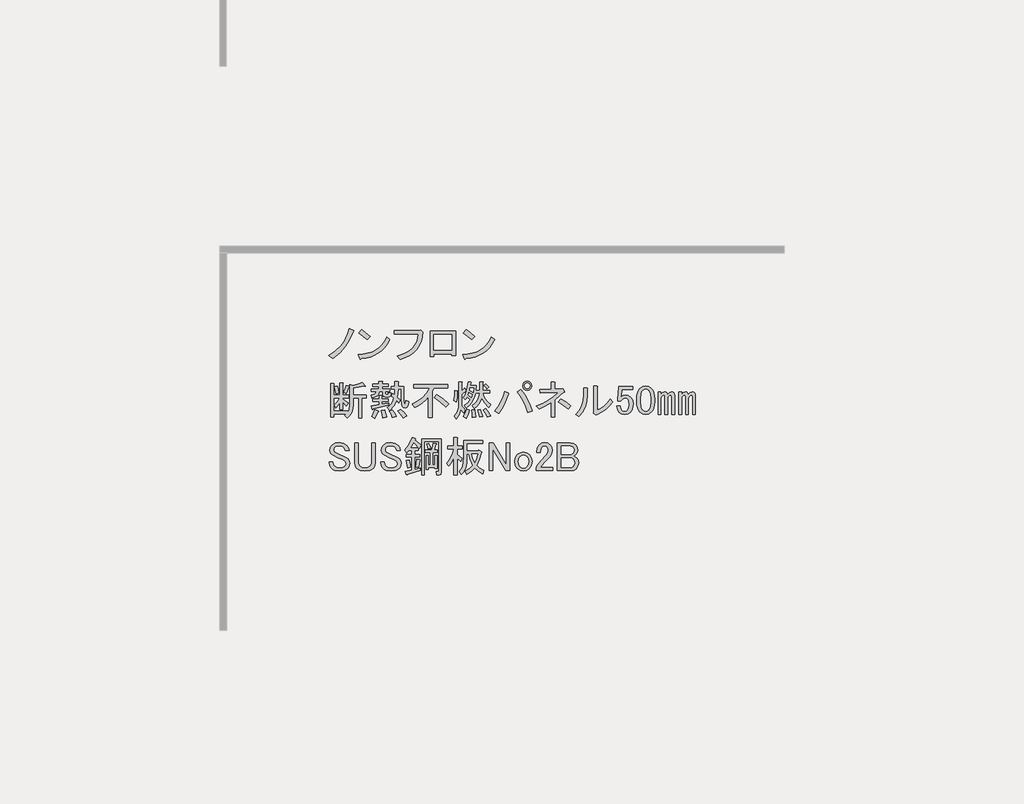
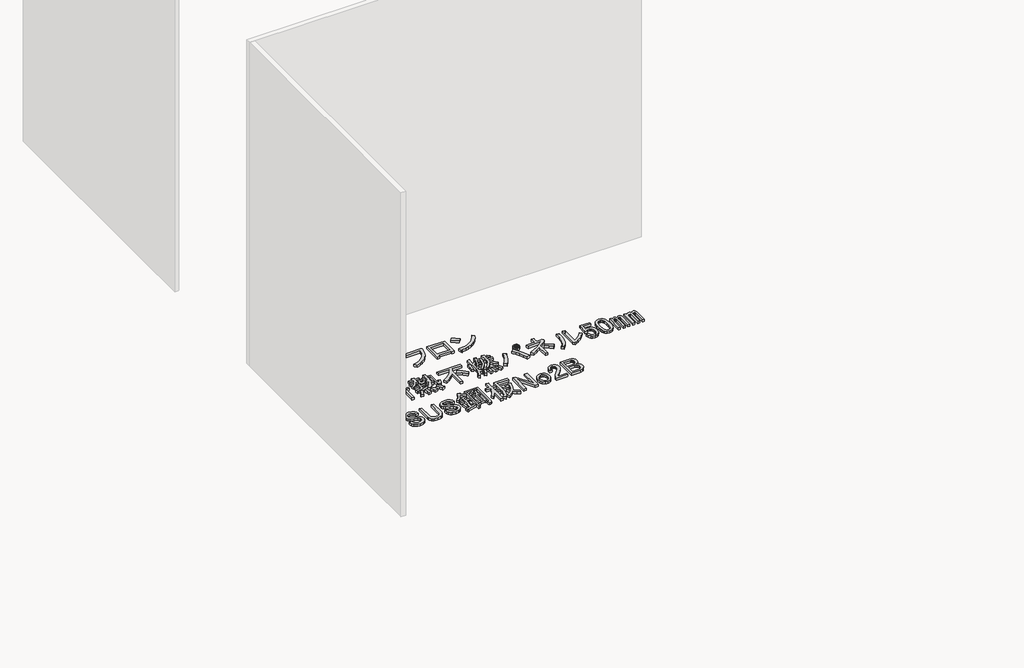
# One storey, part 28 of 117: 1 proxy.
"""IFC4 building model written with IfcOpenShell, lengths in millimetres."""

from ifc_helpers import new_model, si_unit, frame, origin, place, context, project, spatial, polyline, outline, extrude, element, save

model = new_model("IFC4")

# Units and contexts
model_context = context("Model", 3, world=origin())
ifc_project = project(units=[si_unit("LENGTHUNIT", "METRE", prefix="MILLI")], contexts=[model_context])

# Site, building, storey
site = spatial("IfcSite", under=ifc_project)
building = spatial("IfcBuilding", under=site)
storey = spatial("IfcBuildingStorey", under=building, Name="レベル 1", Elevation=500.0)

# Proxy
placement = place(None, origin())
element("IfcBuildingElementProxy", 1, Name="200㎜\u3000MS Pゴシック", ObjectType="200㎜\u3000MS Pゴシック", at=placement, inside=storey, context=model_context, shape_type="SweptSolid", body=[
    extrude(outline(polyline([(8943.6706985, -24607.0496882), (8918.0952502, -24666.8215225), (8889.646156, -24712.7998566), (8847.9782907, -24758.2034615), (8798.8389462, -24795.560858), (8771.2519457, -24773.7211493), (8818.9544673, -24743.2605029), (8858.6107805, -24704.7536481), (8875.9963381, -24680.8305462), (8891.3703435, -24652.7406577), (8904.7327969, -24620.4839827), (8916.0836981, -24584.0605212), (8947.1190736, -24597.8540214), (8950.2800841, -24602.4518548), (8943.6706985, -24607.0496882)])), frame((0.0, 0.0, 500.0), z_axis=(0.0, 0.0, 1.0), x_axis=(1.0, 0.0, 0.0)), (0.0, 0.0, 1.0), 25.0),
    extrude(outline(polyline([(9043.3977052, -24662.2236891), (8984.7753292, -24615.0958967), (9004.3161212, -24590.9572713), (9031.6157571, -24610.7854279), (9065.2374138, -24640.3839804), (9043.3977052, -24662.2236891)])), frame((0.0, 0.0, 500.0), z_axis=(0.0, 0.0, 1.0), x_axis=(1.0, 0.0, 0.0)), (0.0, 0.0, 1.0), 25.0),
    extrude(outline(polyline([(9205.4713328, -24662.2236891), (9188.947869, -24691.965924), (9169.8381239, -24717.9724192), (9148.1420975, -24740.2431748), (9123.8597898, -24758.7781907), (9096.9912008, -24773.577467), (9067.5363306, -24784.6410036), (9035.495179, -24791.9688006), (9000.8677461, -24795.560858), (8995.1204544, -24803.6070664), (8989.3731626, -24797.8597747), (8980.1774958, -24767.9738575), (9016.0082679, -24765.2977748), (9048.7857912, -24758.9937141), (9078.5100658, -24749.0616756), (9105.1810916, -24735.5016591), (9128.7988687, -24718.3136646), (9149.363397, -24697.4976923), (9166.8746766, -24673.053742), (9181.3327074, -24644.9818138), (9205.4713328, -24662.2236891)])), frame((0.0, 0.0, 500.0), z_axis=(0.0, 0.0, 1.0), x_axis=(1.0, 0.0, 0.0)), (0.0, 0.0, 1.0), 25.0),
    extrude(outline(polyline([(9256.2314136, -24777.1695243), (9290.014713, -24767.4889298), (9319.5234641, -24755.1142922), (9344.757667, -24740.0456116), (9365.7173217, -24722.282888), (9382.402428, -24701.8261214), (9394.8129862, -24678.6753118), (9402.9489961, -24652.8304591), (9406.8104577, -24624.2915635), (9234.3917049, -24624.2915635), (9234.3917049, -24599.0034798), (9409.1093744, -24599.0034798), (9425.2017914, -24595.5551047), (9437.8458332, -24607.0496882), (9434.325617, -24643.5449909), (9426.0638851, -24676.5919185), (9413.0606375, -24706.1904711), (9395.3158742, -24732.3406486), (9372.8295952, -24755.042451), (9345.6018005, -24774.2958784), (9313.6324901, -24790.1009308), (9276.921664, -24802.4576081), (9256.2314136, -24777.1695243)])), frame((0.0, 0.0, 500.0), z_axis=(0.0, 0.0, 1.0), x_axis=(1.0, 0.0, 0.0)), (0.0, 0.0, 1.0), 25.0),
    extrude(outline(polyline([(9670.955987, -24776.020066), (9644.5184449, -24776.020066), (9644.5184449, -24763.3760241), (9516.9285679, -24763.3760241), (9516.9285679, -24781.7673577), (9490.4910258, -24781.7673577), (9490.4910258, -24602.4518548), (9670.955987, -24602.4518548), (9670.955987, -24776.020066)]), holes=[polyline([(9516.9285679, -24627.7399386), (9516.9285679, -24738.0879404), (9644.5184449, -24738.0879404), (9644.5184449, -24627.7399386), (9516.9285679, -24627.7399386)])]), frame((0.0, 0.0, 500.0), z_axis=(0.0, 0.0, 1.0), x_axis=(1.0, 0.0, 0.0)), (0.0, 0.0, 1.0), 25.0),
    extrude(outline(polyline([(9947.0099049, -24662.2236891), (9930.4864411, -24691.965924), (9911.376696, -24717.9724192), (9889.6806696, -24740.2431748), (9865.3983619, -24758.7781907), (9838.5297729, -24773.577467), (9809.0749026, -24784.6410036), (9777.0337511, -24791.9688006), (9742.4063182, -24795.560858), (9736.6590264, -24803.6070664), (9730.9117347, -24797.8597747), (9721.7160679, -24767.9738575), (9757.5468399, -24765.2977748), (9790.3243633, -24758.9937141), (9820.0486378, -24749.0616756), (9846.7196637, -24735.5016591), (9870.3374407, -24718.3136646), (9890.9019691, -24697.4976923), (9908.4132486, -24673.053742), (9922.8712795, -24644.9818138), (9947.0099049, -24662.2236891)])), frame((0.0, 0.0, 500.0), z_axis=(0.0, 0.0, 1.0), x_axis=(1.0, 0.0, 0.0)), (0.0, 0.0, 1.0), 25.0),
    extrude(outline(polyline([(9784.9362772, -24662.2236891), (9726.3139013, -24615.0958967), (9745.8546933, -24590.9572713), (9773.1543291, -24610.7854279), (9806.7759859, -24640.3839804), (9784.9362772, -24662.2236891)])), frame((0.0, 0.0, 500.0), z_axis=(0.0, 0.0, 1.0), x_axis=(1.0, 0.0, 0.0)), (0.0, 0.0, 1.0), 25.0),
    extrude(outline(polyline([(8877.0021141, -25039.2345221), (8894.2439894, -24986.3594379), (8914.9342397, -24992.1067296), (8916.6584273, -24995.2677401), (8912.635323, -24997.8540214), (8895.3934477, -25046.1312722), (8877.0021141, -25039.2345221)])), frame((0.0, 0.0, 500.0), z_axis=(0.0, 0.0, 1.0), x_axis=(1.0, 0.0, 0.0)), (0.0, 0.0, 1.0), 25.0),
    extrude(outline(polyline([(9031.0295333, -24990.9572713), (9029.3053458, -24995.5551047), (9021.8338665, -24993.256188), (8944.8201569, -25005.9002299), (8944.8201569, -25055.326939), (9036.7768251, -25055.326939), (9036.7768251, -25077.1666477), (9005.7414495, -25077.1666477), (9005.7414495, -25217.4005666), (8982.7522825, -25217.4005666), (8982.7522825, -25077.1666477), (8944.8201569, -25077.1666477), (8944.8201569, -25126.5933568), (8942.2338756, -25154.3958807), (8934.4750317, -25179.1810764), (8921.5436253, -25200.948944), (8903.4396562, -25219.6994833), (8886.1977809, -25200.1586914), (8896.5429061, -25190.9630245), (8806.8851546, -25190.9630245), (8806.8851546, -25212.8027332), (8783.8959876, -25212.8027332), (8783.8959876, -24973.715396), (8805.7356963, -24973.715396), (8810.6208943, -24976.0143127), (8806.8851546, -24980.6121461), (8806.8851546, -25056.4763974), (8849.4151137, -25056.4763974), (8849.4151137, -24969.1175626), (8867.8064473, -24969.1175626), (8872.6916453, -24971.4164793), (8868.9559057, -24976.0143127), (8868.9559057, -25056.4763974), (8912.635323, -25056.4763974), (8912.635323, -25074.867731), (8868.9559057, -25074.867731), (8868.9559057, -25084.0633978), (8909.186948, -25110.5009399), (8895.3934477, -25132.3406486), (8868.9559057, -25105.9031065), (8868.9559057, -25158.7781907), (8849.4151137, -25158.7781907), (8849.4151137, -25110.5009399), (8836.1963426, -25130.3290965), (8821.8281132, -25146.1341488), (8809.1840713, -25127.7428152), (8831.02378, -25103.6041898), (8848.2656553, -25074.867731), (8806.8851546, -25074.867731), (8806.8851546, -25169.1233159), (8904.5891146, -25169.1233159), (8904.5891146, -25182.9168161), (8917.520521, -25158.7781907), (8921.8309898, -25125.4438985), (8921.8309898, -24980.6121461), (8943.6706985, -24986.3594379), (8979.8786366, -24978.8879586), (9010.339283, -24965.6691875), (9031.0295333, -24990.9572713)])), frame((0.0, 0.0, 500.0), z_axis=(0.0, 0.0, 1.0), x_axis=(1.0, 0.0, 0.0)), (0.0, 0.0, 1.0), 25.0),
    extrude(outline(polyline([(8822.9775716, -25047.2807305), (8810.3335297, -24996.7045631), (8829.8743217, -24989.8078129), (8837.6331656, -25013.9464383), (8842.5183636, -25040.3839804), (8822.9775716, -25047.2807305)])), frame((0.0, 0.0, 500.0), z_axis=(0.0, 0.0, 1.0), x_axis=(1.0, 0.0, 0.0)), (0.0, 0.0, 1.0), 25.0),
    extrude(outline(polyline([(9121.8367431, -25167.9738575), (9125.2851182, -25172.8590555), (9119.5378264, -25176.020066), (9109.7674304, -25201.5955143), (9098.8475761, -25220.8489417), (9075.858409, -25209.3543582), (9088.5024509, -25185.790462), (9098.8475761, -25158.7781907), (9121.8367431, -25167.9738575)])), frame((0.0, 0.0, 500.0), z_axis=(0.0, 0.0, 1.0), x_axis=(1.0, 0.0, 0.0)), (0.0, 0.0, 1.0), 25.0),
    extrude(outline(polyline([(9166.6656188, -25163.3760241), (9176.7233794, -25190.67566), (9181.6085774, -25212.8027332), (9152.8721186, -25218.550025), (9150.2858373, -25196.9976809), (9142.5269934, -25166.8243992), (9166.6656188, -25163.3760241)])), frame((0.0, 0.0, 500.0), z_axis=(0.0, 0.0, 1.0), x_axis=(1.0, 0.0, 0.0)), (0.0, 0.0, 1.0), 25.0),
    extrude(outline(polyline([(9281.611454, -25157.6287323), (9306.3248086, -25178.8937119), (9325.2908714, -25203.6070664), (9298.8533293, -25218.550025), (9279.5999019, -25188.9514724), (9260.9212037, -25169.1233159), (9281.611454, -25157.6287323)])), frame((0.0, 0.0, 500.0), z_axis=(0.0, 0.0, 1.0), x_axis=(1.0, 0.0, 0.0)), (0.0, 0.0, 1.0), 25.0),
    extrude(outline(polyline([(9222.9890781, -25216.2511083), (9214.655505, -25191.5377537), (9201.1493694, -25170.2727742), (9221.8396197, -25162.2265657), (9238.7941304, -25183.7789098), (9250.5760785, -25207.0554415), (9222.9890781, -25216.2511083)])), frame((0.0, 0.0, 500.0), z_axis=(0.0, 0.0, 1.0), x_axis=(1.0, 0.0, 0.0)), (0.0, 0.0, 1.0), 25.0),
    extrude(outline(polyline([(9083.9046175, -25153.0308989), (9081.8930654, -25157.9160969), (9078.1573257, -25156.479274), (9072.410034, -25132.3406486), (9127.5840349, -25124.2944401), (9127.5840349, -25101.3052731), (9083.9046175, -25101.3052731), (9083.9046175, -25082.9139395), (9127.5840349, -25082.9139395), (9127.5840349, -25059.9247724), (9145.9753685, -25059.9247724), (9150.8605665, -25062.2236891), (9147.1248268, -25066.8215225), (9147.1248268, -25082.9139395), (9191.9537026, -25082.9139395), (9191.9537026, -25101.3052731), (9147.1248268, -25101.3052731), (9147.1248268, -25120.8460651), (9197.7009943, -25111.6503983), (9197.7009943, -25127.7428152), (9083.9046175, -25153.0308989)])), frame((0.0, 0.0, 500.0), z_axis=(0.0, 0.0, 1.0), x_axis=(1.0, 0.0, 0.0)), (0.0, 0.0, 1.0), 25.0),
    extrude(outline(polyline([(9154.021577, -25031.1883136), (9128.7334932, -25031.1883136), (9124.1356598, -25048.6457123), (9113.7905346, -25061.9363245), (9097.6981177, -25071.0601502), (9075.858409, -25076.0171893), (9071.2605756, -25056.4763974), (9096.5486594, -25047.8554597), (9104.0201386, -25040.5276627), (9108.0432429, -25031.1883136), (9072.410034, -25031.1883136), (9072.410034, -25012.79698), (9126.4345765, -25012.79698), (9126.4345765, -24995.5551047), (9082.7551591, -24995.5551047), (9082.7551591, -24977.1637711), (9126.4345765, -24977.1637711), (9126.4345765, -24958.7724374), (9148.2742852, -24958.7724374), (9153.1594832, -24961.0713541), (9149.4237436, -24965.6691875), (9149.4237436, -24977.1637711), (9191.9537026, -24977.1637711), (9191.9537026, -24995.5551047), (9149.4237436, -24995.5551047), (9149.4237436, -25012.79698), (9202.2988277, -25012.79698), (9202.2988277, -25031.1883136), (9173.5623689, -25031.1883136), (9173.5623689, -25043.8323555), (9174.9991919, -25049.0049181), (9179.3096607, -25050.7291056), (9189.6547859, -25050.7291056), (9193.3905255, -25047.5680951), (9193.1031609, -25038.0850637), (9212.6439529, -25040.3839804), (9209.770307, -25061.9363245), (9204.4540622, -25067.3244106), (9196.551536, -25069.1204392), (9172.4129106, -25069.1204392), (9158.6194104, -25064.2352412), (9154.021577, -25049.5796472), (9154.021577, -25031.1883136)])), frame((0.0, 0.0, 500.0), z_axis=(0.0, 0.0, 1.0), x_axis=(1.0, 0.0, 0.0)), (0.0, 0.0, 1.0), 25.0),
    extrude(outline(polyline([(9285.0598291, -25013.9464383), (9263.2201204, -25013.9464383), (9258.622287, -25071.4193559), (9278.163079, -25089.8106896), (9267.8179538, -25111.6503983), (9251.7255369, -25095.5579813), (9232.4721095, -25133.2027424), (9202.2988277, -25165.6749408), (9185.0569525, -25144.9846905), (9200.1435933, -25133.0590601), (9213.2186821, -25117.9724192), (9224.2822187, -25099.7247679), (9233.3342033, -25078.316106), (9216.092328, -25063.3731475), (9224.1385364, -25046.1312722), (9237.9320367, -25056.4763974), (9240.2309534, -25013.9464383), (9212.6439529, -25013.9464383), (9212.6439529, -24995.5551047), (9240.2309534, -24995.5551047), (9240.2309534, -24961.0713541), (9262.0706621, -24961.0713541), (9266.95586, -24963.3702708), (9263.2201204, -24967.9681043), (9263.2201204, -24995.5551047), (9304.6006211, -24995.5551047), (9304.6006211, -25092.1096063), (9308.0489961, -25116.2482317), (9311.2818477, -25118.2597838), (9314.0836525, -25115.0987733), (9318.3941213, -25093.2590646), (9337.9349133, -25100.1558147), (9333.408921, -25126.9525626), (9325.578236, -25142.9731384), (9314.4428582, -25148.2175421), (9300.0027877, -25142.6857738), (9293.4652433, -25135.3579768), (9288.7955687, -25123.719711), (9285.0598291, -25087.5117729), (9285.0598291, -25013.9464383)])), frame((0.0, 0.0, 500.0), z_axis=(0.0, 0.0, 1.0), x_axis=(1.0, 0.0, 0.0)), (0.0, 0.0, 1.0), 25.0),
    extrude(outline(polyline([(9373.5681222, -24980.6121461), (9614.9543761, -24980.6121461), (9614.9543761, -25005.9002299), (9514.9514995, -25005.9002299), (9504.6063743, -25030.0388553), (9504.6063743, -25216.2511083), (9478.1688322, -25216.2511083), (9478.1688322, -25069.1204392), (9457.3348996, -25092.3969709), (9433.9146857, -25112.7998566), (9407.9081905, -25130.3290965), (9379.315414, -25144.9846905), (9363.222997, -25118.5471484), (9402.807469, -25098.1442626), (9436.500967, -25072.5688143), (9464.3034909, -25041.8208034), (9486.2150407, -25005.9002299), (9373.5681222, -25005.9002299), (9373.5681222, -24980.6121461)])), frame((0.0, 0.0, 500.0), z_axis=(0.0, 0.0, 1.0), x_axis=(1.0, 0.0, 0.0)), (0.0, 0.0, 1.0), 25.0),
    extrude(outline(polyline([(9600.0114176, -25141.5363154), (9560.9298336, -25103.3168252), (9519.5493329, -25073.7182726), (9535.6417498, -25053.0280223), (9579.3211672, -25081.1897519), (9620.7016679, -25119.6966067), (9600.0114176, -25141.5363154)])), frame((0.0, 0.0, 500.0), z_axis=(0.0, 0.0, 1.0), x_axis=(1.0, 0.0, 0.0)), (0.0, 0.0, 1.0), 25.0),
    extrude(outline(polyline([(9767.832337, -25163.3760241), (9759.2113993, -25193.8366704), (9744.8431699, -25220.8489417), (9725.3023779, -25208.2048998), (9739.3832427, -25183.4915453), (9749.4410033, -25155.3298156), (9767.832337, -25163.3760241)])), frame((0.0, 0.0, 500.0), z_axis=(0.0, 0.0, 1.0), x_axis=(1.0, 0.0, 0.0)), (0.0, 0.0, 1.0), 25.0),
    extrude(outline(polyline([(9682.7724189, -25025.4410219), (9687.3702523, -25027.7399386), (9682.7724189, -25032.337772), (9681.6229605, -25071.9940851), (9675.8756688, -25105.9031065), (9657.4843352, -25093.2590646), (9663.2316269, -25058.7753141), (9664.3810853, -25021.9926468), (9682.7724189, -25025.4410219)])), frame((0.0, 0.0, 500.0), z_axis=(0.0, 0.0, 1.0), x_axis=(1.0, 0.0, 0.0)), (0.0, 0.0, 1.0), 25.0),
    extrude(outline(polyline([(9734.4980447, -25007.0496882), (9743.6937116, -25024.2915635), (9745.1305345, -25030.3262199), (9740.2453365, -25030.0388553), (9713.8077944, -25050.7291056), (9713.8077944, -25134.6395653), (9727.6012946, -25146.9962426), (9739.0958781, -25163.3760241), (9726.4518363, -25184.0662744), (9708.0605026, -25158.7781907), (9696.2785545, -25194.6987642), (9674.7262104, -25224.2973168), (9659.7832519, -25205.9059831), (9674.8698927, -25187.1554438), (9685.6460648, -25166.5370346), (9692.111768, -25144.0507556), (9694.2670024, -25119.6966067), (9694.2670024, -24962.2208125), (9712.6583361, -24962.2208125), (9717.543534, -24964.5197292), (9713.8077944, -24969.1175626), (9713.8077944, -25027.7399386), (9734.4980447, -25007.0496882)])), frame((0.0, 0.0, 500.0), z_axis=(0.0, 0.0, 1.0), x_axis=(1.0, 0.0, 0.0)), (0.0, 0.0, 1.0), 25.0),
    extrude(outline(polyline([(9885.0770889, -24976.0143127), (9906.9167975, -25000.1529381), (9889.6749223, -25011.6475216), (9883.0655367, -25000.1529381), (9870.1341303, -24986.3594379), (9885.0770889, -24976.0143127)])), frame((0.0, 0.0, 500.0), z_axis=(0.0, 0.0, 1.0), x_axis=(1.0, 0.0, 0.0)), (0.0, 0.0, 1.0), 25.0),
    extrude(outline(polyline([(9895.422214, -25212.8027332), (9882.203443, -25184.6410036), (9865.5362969, -25159.927649), (9883.9276305, -25151.8814406), (9902.8936933, -25174.8706076), (9918.4113811, -25202.4576081), (9895.422214, -25212.8027332)])), frame((0.0, 0.0, 500.0), z_axis=(0.0, 0.0, 1.0), x_axis=(1.0, 0.0, 0.0)), (0.0, 0.0, 1.0), 25.0),
    extrude(outline(polyline([(9845.9955049, -25157.6287323), (9864.3868385, -25207.0554415), (9840.2482131, -25211.6532749), (9826.4547129, -25161.0771074), (9845.9955049, -25157.6287323)])), frame((0.0, 0.0, 500.0), z_axis=(0.0, 0.0, 1.0), x_axis=(1.0, 0.0, 0.0)), (0.0, 0.0, 1.0), 25.0),
    extrude(outline(polyline([(9787.3731289, -25215.1016499), (9787.9478581, -25188.0893787), (9785.0742122, -25159.927649), (9804.6150042, -25158.7781907), (9810.9370252, -25184.9283682), (9811.5117543, -25212.8027332), (9787.3731289, -25215.1016499)])), frame((0.0, 0.0, 500.0), z_axis=(0.0, 0.0, 1.0), x_axis=(1.0, 0.0, 0.0)), (0.0, 0.0, 1.0), 25.0),
    extrude(outline(polyline([(9906.9167975, -25142.6857738), (9876.1687866, -25112.2251274), (9855.1911717, -25078.316106), (9846.7857575, -25100.4431793), (9835.3630151, -25119.6966067), (9820.9229446, -25136.0763882), (9803.4655459, -25149.5825239), (9789.6720456, -25131.1911902), (9810.5059783, -25112.2969686), (9825.8799837, -25091.2475125), (9835.794062, -25068.042822), (9840.2482131, -25042.6828971), (9811.5117543, -25042.6828971), (9803.537387, -25073.2872258), (9789.9594102, -25100.7305439), (9770.777824, -25125.0128516), (9745.9926283, -25146.1341488), (9733.3485864, -25130.0417319), (9759.2113993, -25108.4893878), (9774.7290871, -25087.5117729), (9752.8893784, -25067.9709809), (9739.0958781, -25088.6612312), (9725.3023779, -25073.7182726), (9737.7308964, -25054.6803687), (9747.4294512, -25029.7514907), (9754.3980425, -24998.9316386), (9758.6366701, -24962.2208125), (9779.3269205, -24964.5197292), (9782.7752955, -24967.1060105), (9777.0280038, -24970.267021), (9774.7290871, -24988.6583546), (9818.4085044, -24988.6583546), (9814.9601294, -25024.2915635), (9840.2482131, -25024.2915635), (9840.2482131, -24962.2208125), (9862.0879218, -24962.2208125), (9866.9731198, -24964.5197292), (9863.2373802, -24969.1175626), (9863.2373802, -25024.2915635), (9912.6640893, -25024.2915635), (9912.6640893, -25042.6828971), (9863.2373802, -25042.6828971), (9869.7749245, -25064.4507647), (9881.3413492, -25084.9254916), (9897.9366542, -25104.1070778), (9919.5608394, -25121.9955234), (9906.9167975, -25142.6857738)]), holes=[polyline([(9782.7752955, -25072.5688143), (9789.6720456, -25053.0280223), (9764.3839619, -25036.9356054), (9758.6366701, -25054.1774807), (9782.7752955, -25072.5688143)]), polyline([(9772.4301704, -25007.0496882), (9768.9817953, -25023.1421052), (9794.269879, -25036.9356054), (9798.8677125, -25007.0496882), (9772.4301704, -25007.0496882)])]), frame((0.0, 0.0, 500.0), z_axis=(0.0, 0.0, 1.0), x_axis=(1.0, 0.0, 0.0)), (0.0, 0.0, 1.0), 25.0),
    extrude(outline(polyline([(10132.2106345, -25016.245355), (10158.8637001, -25052.9561812), (10181.3499791, -25090.6727833), (10199.6694716, -25129.3951616), (10213.8221775, -25169.1233159), (10182.786802, -25179.468441), (10167.3409554, -25136.3637528), (10149.7398744, -25097.856898), (10129.983559, -25063.9478766), (10108.0720092, -25034.6366887), (10132.2106345, -25016.245355)])), frame((0.0, 0.0, 500.0), z_axis=(0.0, 0.0, 1.0), x_axis=(1.0, 0.0, 0.0)), (0.0, 0.0, 1.0), 25.0),
    extrude(outline(polyline([(10044.8517998, -25042.6828971), (10048.874904, -25048.1428243), (10042.5528831, -25053.0280223), (10030.6272527, -25088.4457078), (10015.5406118, -25122.282888), (9997.2929605, -25154.539563), (9975.8842987, -25185.2157328), (9949.4467566, -25167.9738575), (9972.6514471, -25136.5074351), (9991.689351, -25103.0294606), (10006.5604684, -25067.539934), (10017.2647993, -25030.0388553), (10044.8517998, -25042.6828971)])), frame((0.0, 0.0, 500.0), z_axis=(0.0, 0.0, 1.0), x_axis=(1.0, 0.0, 0.0)), (0.0, 0.0, 1.0), 25.0),
    extrude(outline(polyline([(10178.1889686, -25021.9926468), (10165.5449268, -25019.6937301), (10155.1998016, -25012.79698), (10148.3030515, -25002.4518548), (10146.0041348, -24989.8078129), (10148.3030515, -24977.1637711), (10155.1998016, -24966.8186459), (10165.5449268, -24959.9218958), (10178.1889686, -24957.6229791), (10190.8330105, -24959.9218958), (10201.1781357, -24966.8186459), (10208.0748858, -24977.1637711), (10210.3738025, -24989.8078129), (10208.0748858, -25002.4518548), (10201.1781357, -25012.79698), (10190.8330105, -25019.6937301), (10178.1889686, -25021.9926468)]), holes=[polyline([(10178.1889686, -25010.4980633), (10186.5225417, -25009.0612403), (10193.1319272, -25004.7507715), (10197.442396, -24998.141386), (10198.879219, -24989.8078129), (10197.442396, -24981.4742399), (10193.1319272, -24974.8648544), (10186.5225417, -24970.5543855), (10178.1889686, -24969.1175626), (10169.8553956, -24970.5543855), (10163.2460101, -24974.8648544), (10158.9355412, -24981.4742399), (10157.4987183, -24989.8078129), (10158.9355412, -24998.141386), (10163.2460101, -25004.7507715), (10169.8553956, -25009.0612403), (10178.1889686, -25010.4980633)])]), frame((0.0, 0.0, 500.0), z_axis=(0.0, 0.0, 1.0), x_axis=(1.0, 0.0, 0.0)), (0.0, 0.0, 1.0), 25.0),
    extrude(outline(polyline([(10421.8741393, -25011.6475216), (10428.7708894, -25009.3486049), (10441.4149312, -25026.5904802), (10442.5643896, -25032.6251366), (10436.8170978, -25034.6366887), (10373.5968885, -25090.9601479), (10373.5968885, -25211.6532749), (10347.1593464, -25211.6532749), (10347.1593464, -25109.3514816), (10306.9283041, -25133.4901069), (10262.0994283, -25155.3298156), (10242.5586363, -25134.6395653), (10288.1059235, -25115.1706145), (10329.3427419, -25092.3969709), (10366.2690915, -25066.3186345), (10398.8849722, -25036.9356054), (10268.9961784, -25042.6828971), (10265.5478034, -25017.3948134), (10347.1593464, -25015.0958967), (10347.1593464, -24963.3702708), (10370.1485134, -24963.3702708), (10376.1831698, -24966.8186459), (10373.5968885, -24972.5659377), (10373.5968885, -25013.9464383), (10421.8741393, -25011.6475216)])), frame((0.0, 0.0, 500.0), z_axis=(0.0, 0.0, 1.0), x_axis=(1.0, 0.0, 0.0)), (0.0, 0.0, 1.0), 25.0),
    extrude(outline(polyline([(10467.8524733, -25155.3298156), (10430.7824415, -25126.0186277), (10397.7355139, -25104.7536481), (10414.9773892, -25082.9139395), (10453.7716085, -25106.1904711), (10487.3932653, -25132.3406486), (10467.8524733, -25155.3298156)])), frame((0.0, 0.0, 500.0), z_axis=(0.0, 0.0, 1.0), x_axis=(1.0, 0.0, 0.0)), (0.0, 0.0, 1.0), 25.0),
    extrude(outline(polyline([(10674.8469334, -25162.2265657), (10699.6321291, -25150.0135708), (10723.4115488, -25132.9153778), (10746.1851924, -25110.9319868), (10767.9530599, -25084.0633978), (10784.0454768, -25105.9031065), (10760.7689452, -25133.7056304), (10734.6187677, -25157.3413678), (10705.5949443, -25176.8103186), (10673.697475, -25192.1124829), (10664.5018082, -25196.7103163), (10646.1104746, -25182.9168161), (10648.4093913, -25177.1695243), (10648.4093913, -24992.1067296), (10672.5480167, -24992.1067296), (10678.2953084, -24995.5551047), (10674.8469334, -25001.3023965), (10674.8469334, -25162.2265657)])), frame((0.0, 0.0, 500.0), z_axis=(0.0, 0.0, 1.0), x_axis=(1.0, 0.0, 0.0)), (0.0, 0.0, 1.0), 25.0),
    extrude(outline(polyline([(10520.8195142, -25193.2619413), (10545.9639157, -25164.0225944), (10563.9242024, -25131.4785548), (10574.7003745, -25095.6298225), (10578.2924318, -25056.4763974), (10578.2924318, -25004.7507715), (10602.4310572, -25004.7507715), (10608.178349, -25008.1991466), (10604.7299739, -25013.9464383), (10604.7299739, -25055.326939), (10600.9223931, -25101.0897496), (10589.4996507, -25141.82368), (10570.4617468, -25177.5287301), (10543.8086812, -25208.2048998), (10520.8195142, -25193.2619413)])), frame((0.0, 0.0, 500.0), z_axis=(0.0, 0.0, 1.0), x_axis=(1.0, 0.0, 0.0)), (0.0, 0.0, 1.0), 25.0),
    extrude(outline(polyline([(10825.4259775, -24995.5551047), (10924.2793958, -24995.5551047), (10924.2793958, -25017.3948134), (10847.2656862, -25017.3948134), (10847.2656862, -25020.8431884), (10843.8173111, -25063.3731475), (10842.6678528, -25070.2698976), (10858.1855405, -25059.9247724), (10874.8526866, -25056.4763974), (10895.8303016, -25060.212137), (10912.7848123, -25071.4193559), (10924.854125, -25091.2475125), (10928.8772292, -25118.5471484), (10923.7046666, -25153.0308989), (10917.2389634, -25166.8243992), (10908.1869788, -25178.3189827), (10890.0830098, -25190.3882954), (10867.9559365, -25194.4113996), (10846.9783216, -25190.67566), (10830.0238109, -25179.468441), (10817.9544982, -25160.7897428), (10811.6324773, -25134.6395653), (10838.0700194, -25134.6395653), (10842.0931236, -25153.3182635), (10849.5646029, -25165.6749408), (10857.3234468, -25170.8475034), (10866.8064782, -25172.5716909), (10879.1631555, -25170.5601388), (10888.6461869, -25164.5254825), (10898.1292183, -25147.5709718), (10901.2902287, -25121.9955234), (10898.7039474, -25097.856898), (10890.9451036, -25082.9139395), (10883.4736243, -25077.7413769), (10874.8526866, -25076.0171893), (10861.9212802, -25078.6034706), (10850.7140612, -25086.3623145), (10841.5183944, -25096.7074397), (10818.5292274, -25096.7074397), (10819.6786857, -25088.6612312), (10825.4259775, -25000.1529381), (10825.4259775, -24995.5551047)])), frame((0.0, 0.0, 500.0), z_axis=(0.0, 0.0, 1.0), x_axis=(1.0, 0.0, 0.0)), (0.0, 0.0, 1.0), 25.0),
    extrude(outline(polyline([(10954.1653129, -25081.7644811), (10955.6021359, -25058.2005849), (10959.9126047, -25038.0850637), (10967.0967194, -25021.4179176), (10977.15448, -25008.1991466), (10995.258449, -24996.1298339), (11017.3855223, -24992.1067296), (11039.5125956, -24996.1298339), (11057.6165646, -25008.1991466), (11067.6743252, -25021.4179176), (11074.8584399, -25038.0850637), (11079.1689087, -25058.2005849), (11080.6057317, -25081.7644811), (11080.6057317, -25104.7536481), (11079.1689087, -25127.8146563), (11074.8584399, -25147.5709718), (11067.6743252, -25164.0225944), (11057.6165646, -25177.1695243), (11039.5125956, -25189.238837), (11017.3855223, -25193.2619413), (10995.258449, -25189.238837), (10977.15448, -25177.1695243), (10967.0967194, -25164.0225944), (10959.9126047, -25147.5709718), (10955.6021359, -25127.8146563), (10954.1653129, -25104.7536481), (10954.1653129, -25081.7644811)]), holes=[polyline([(11017.3855223, -25013.9464383), (11006.4656679, -25016.245355), (10996.695272, -25023.1421052), (10990.1577276, -25032.2659308), (10985.488053, -25044.6944493), (10981.7523134, -25079.4655644), (10981.7523134, -25105.9031065), (10985.7754176, -25140.0994925), (10990.8042979, -25152.6716932), (10997.8447303, -25162.2265657), (11007.3277617, -25169.1233159), (11017.3855223, -25171.4222326), (11028.3053766, -25169.1233159), (11038.0757726, -25162.2265657), (11044.613317, -25153.1027401), (11049.2829916, -25140.6742216), (11053.0187312, -25105.9031065), (11053.0187312, -25079.4655644), (11049.2829916, -25044.6944493), (11044.613317, -25032.2659308), (11038.0757726, -25023.1421052), (11028.3053766, -25016.245355), (11017.3855223, -25013.9464383)])]), frame((0.0, 0.0, 500.0), z_axis=(0.0, 0.0, 1.0), x_axis=(1.0, 0.0, 0.0)), (0.0, 0.0, 1.0), 25.0),
    extrude(outline(polyline([(11347.2800693, -25032.337772), (11355.6136424, -25033.7745949), (11362.2230279, -25038.0850637), (11367.3955905, -25046.7060014), (11369.119778, -25058.7753141), (11369.119778, -25193.2619413), (11349.578986, -25193.2619413), (11349.578986, -25069.1204392), (11346.9927047, -25059.6374078), (11339.2338609, -25056.4763974), (11328.8887357, -25061.0742308), (11322.8540793, -25069.6951684), (11320.8425272, -25079.4655644), (11320.8425272, -25193.2619413), (11301.3017352, -25193.2619413), (11301.3017352, -25069.1204392), (11298.715454, -25059.6374078), (11290.9566101, -25056.4763974), (11280.6114849, -25061.0742308), (11274.5768286, -25069.6951684), (11272.5652764, -25079.4655644), (11272.5652764, -25193.2619413), (11253.0244845, -25193.2619413), (11253.0244845, -25035.786147), (11272.5652764, -25035.786147), (11272.5652764, -25053.0280223), (11284.6345891, -25037.5103346), (11297.8533602, -25032.337772), (11307.049027, -25033.7745949), (11313.9457771, -25038.0850637), (11320.8425272, -25051.878564), (11333.7739337, -25037.22297), (11347.2800693, -25032.337772)])), frame((0.0, 0.0, 500.0), z_axis=(0.0, 0.0, 1.0), x_axis=(1.0, 0.0, 0.0)), (0.0, 0.0, 1.0), 25.0),
    extrude(outline(polyline([(11125.4346074, -25193.2619413), (11105.8938154, -25193.2619413), (11105.8938154, -25035.786147), (11125.4346074, -25035.786147), (11125.4346074, -25053.0280223), (11137.5039201, -25037.5103346), (11150.7226911, -25032.337772), (11159.9183579, -25033.7745949), (11166.8151081, -25038.0850637), (11173.7118582, -25051.878564), (11186.6432646, -25037.22297), (11200.1494003, -25032.337772), (11208.4829733, -25033.7745949), (11215.0923588, -25038.0850637), (11220.2649214, -25046.7060014), (11221.989109, -25058.7753141), (11221.989109, -25193.2619413), (11202.448317, -25193.2619413), (11202.448317, -25069.1204392), (11199.8620357, -25059.6374078), (11192.1031918, -25056.4763974), (11181.7580666, -25061.0742308), (11175.7234103, -25069.6951684), (11173.7118582, -25079.4655644), (11173.7118582, -25193.2619413), (11154.1710662, -25193.2619413), (11154.1710662, -25069.1204392), (11151.5847849, -25059.6374078), (11143.825941, -25056.4763974), (11133.4808158, -25061.0742308), (11127.4461595, -25069.6951684), (11125.4346074, -25079.4655644), (11125.4346074, -25193.2619413)])), frame((0.0, 0.0, 500.0), z_axis=(0.0, 0.0, 1.0), x_axis=(1.0, 0.0, 0.0)), (0.0, 0.0, 1.0), 25.0),
    extrude(outline(polyline([(8779.2981542, -25447.2807305), (8783.3212584, -25426.8778448), (8795.3905711, -25409.3486049), (8815.7934569, -25397.2792922), (8844.8172803, -25393.256188), (8876.1400204, -25397.8540214), (8898.8418228, -25411.6475216), (8910.9111355, -25429.1767615), (8914.9342397, -25449.5796472), (8888.4966976, -25449.5796472), (8886.1977809, -25436.9356054), (8879.3010308, -25426.5904802), (8866.0822598, -25418.8316363), (8847.116197, -25416.245355), (8826.7133112, -25418.5442717), (8813.7819048, -25425.4410219), (8807.7472484, -25434.0619595), (8805.7356963, -25443.8323555), (8810.3335297, -25458.7753141), (8831.02378, -25470.2698976), (8890.7956143, -25496.7074397), (8908.0374896, -25508.2020232), (8917.520521, -25521.9955234), (8920.6815315, -25538.0879404), (8916.6584273, -25559.3529199), (8904.5891146, -25577.1695243), (8894.6031951, -25584.7128448), (8881.8873121, -25590.1009308), (8848.2656553, -25594.4113996), (8814.6439985, -25589.238837), (8801.0660217, -25582.7731338), (8789.6432794, -25573.7211493), (8778.4360604, -25555.3298156), (8774.7003208, -25530.0417319), (8801.1378629, -25530.0417319), (8803.4367796, -25547.8583363), (8810.3335297, -25559.927649), (8826.4259466, -25569.4106804), (8849.4151137, -25572.5716909), (8870.3927286, -25569.698045), (8885.0483226, -25561.0771074), (8891.9450727, -25551.8814406), (8894.2439894, -25542.6857738), (8892.5198019, -25533.2027424), (8887.3472393, -25525.4438985), (8868.9559057, -25513.949315), (8839.0699885, -25500.1558147), (8805.7356963, -25485.2128562), (8789.6432794, -25474.867731), (8781.8844355, -25462.7984183), (8779.2981542, -25447.2807305)])), frame((0.0, 0.0, 500.0), z_axis=(0.0, 0.0, 1.0), x_axis=(1.0, 0.0, 0.0)), (0.0, 0.0, 1.0), 25.0),
    extrude(outline(polyline([(8954.7054987, -25395.5551047), (8981.1430408, -25395.5551047), (8981.1430408, -25533.4901069), (8983.7293221, -25548.1457009), (8991.488166, -25559.927649), (9007.0058537, -25569.4106804), (9028.2708332, -25572.5716909), (9049.5358128, -25569.4106804), (9065.0535005, -25559.927649), (9072.8123444, -25548.1457009), (9075.3986257, -25533.4901069), (9075.3986257, -25395.5551047), (9101.8361678, -25395.5551047), (9101.8361678, -25534.6395653), (9097.8130635, -25557.6287323), (9085.7437508, -25576.020066), (9075.2549434, -25584.0662744), (9062.1798546, -25589.8135662), (9028.2708332, -25594.4113996), (8994.3618119, -25589.8135662), (8981.2867231, -25584.0662744), (8970.7979156, -25576.020066), (8958.7286029, -25557.6287323), (8954.7054987, -25534.6395653), (8954.7054987, -25395.5551047)])), frame((0.0, 0.0, 500.0), z_axis=(0.0, 0.0, 1.0), x_axis=(1.0, 0.0, 0.0)), (0.0, 0.0, 1.0), 25.0),
    extrude(outline(polyline([(9144.1822135, -25447.2807305), (9148.2053177, -25426.8778448), (9160.2746304, -25409.3486049), (9180.6775161, -25397.2792922), (9209.7013395, -25393.256188), (9241.0240796, -25397.8540214), (9263.7258821, -25411.6475216), (9275.7951948, -25429.1767615), (9279.818299, -25449.5796472), (9253.3807569, -25449.5796472), (9251.0818402, -25436.9356054), (9244.1850901, -25426.5904802), (9230.966319, -25418.8316363), (9212.0002562, -25416.245355), (9191.5973705, -25418.5442717), (9178.665964, -25425.4410219), (9172.6313077, -25434.0619595), (9170.6197556, -25443.8323555), (9175.217589, -25458.7753141), (9195.9078393, -25470.2698976), (9255.6796736, -25496.7074397), (9272.9215489, -25508.2020232), (9282.4045803, -25521.9955234), (9285.5655908, -25538.0879404), (9281.5424865, -25559.3529199), (9269.4731738, -25577.1695243), (9259.4872544, -25584.7128448), (9246.7713714, -25590.1009308), (9213.1497146, -25594.4113996), (9179.5280578, -25589.238837), (9165.950081, -25582.7731338), (9154.5273386, -25573.7211493), (9143.3201197, -25555.3298156), (9139.5843801, -25530.0417319), (9166.0219222, -25530.0417319), (9168.3208389, -25547.8583363), (9175.217589, -25559.927649), (9191.3100059, -25569.4106804), (9214.2991729, -25572.5716909), (9235.2767879, -25569.698045), (9249.9323819, -25561.0771074), (9256.829132, -25551.8814406), (9259.1280487, -25542.6857738), (9257.4038611, -25533.2027424), (9252.2312986, -25525.4438985), (9233.8399649, -25513.949315), (9203.9540478, -25500.1558147), (9170.6197556, -25485.2128562), (9154.5273386, -25474.867731), (9146.7684948, -25462.7984183), (9144.1822135, -25447.2807305)])), frame((0.0, 0.0, 500.0), z_axis=(0.0, 0.0, 1.0), x_axis=(1.0, 0.0, 0.0)), (0.0, 0.0, 1.0), 25.0),
    extrude(outline(polyline([(9413.8451429, -25434.6366887), (9372.4646422, -25390.9572713), (9350.6249335, -25430.0388553), (9405.7989344, -25430.0388553), (9405.7989344, -25448.4301889), (9379.3613923, -25448.4301889), (9379.3613923, -25477.1666477), (9417.2935179, -25477.1666477), (9417.2935179, -25495.5579813), (9379.3613923, -25495.5579813), (9379.3613923, -25582.9168161), (9418.4429763, -25572.5716909), (9420.741893, -25592.1124829), (9328.7852248, -25617.4005666), (9326.4863081, -25623.1478584), (9321.8884747, -25619.6994833), (9314.9917246, -25596.7103163), (9359.8206003, -25587.5146495), (9359.8206003, -25495.5579813), (9321.8884747, -25495.5579813), (9321.8884747, -25477.1666477), (9359.8206003, -25477.1666477), (9359.8206003, -25448.4301889), (9337.9808916, -25448.4301889), (9323.037933, -25466.8215225), (9310.3938912, -25446.1312722), (9338.5556208, -25408.4865112), (9363.2689754, -25357.6229791), (9385.1086841, -25363.3702708), (9388.5570591, -25367.1060105), (9382.8097674, -25369.1175626), (9381.660309, -25372.5659377), (9426.4891847, -25410.4980633), (9413.8451429, -25434.6366887)])), frame((0.0, 0.0, 500.0), z_axis=(0.0, 0.0, 1.0), x_axis=(1.0, 0.0, 0.0)), (0.0, 0.0, 1.0), 25.0),
    extrude(outline(polyline([(9481.6631856, -25397.8540214), (9488.8473003, -25413.0843446), (9494.3072275, -25433.4872303), (9477.0653522, -25439.2345221), (9465.5707687, -25402.4518548), (9481.6631856, -25397.8540214)])), frame((0.0, 0.0, 500.0), z_axis=(0.0, 0.0, 1.0), x_axis=(1.0, 0.0, 0.0)), (0.0, 0.0, 1.0), 25.0),
    extrude(outline(polyline([(9534.5382698, -25399.0034798), (9537.1245511, -25402.4518548), (9531.0898948, -25405.9002299), (9518.4458529, -25443.8323555), (9539.1361032, -25443.8323555), (9539.1361032, -25462.2236891), (9508.1007277, -25462.2236891), (9508.1007277, -25550.7319822), (9523.0436863, -25550.7319822), (9523.0436863, -25482.9139395), (9539.1361032, -25482.9139395), (9539.1361032, -25577.1695243), (9523.0436863, -25577.1695243), (9523.0436863, -25569.1233159), (9477.0653522, -25569.1233159), (9477.0653522, -25581.7673577), (9460.9729353, -25581.7673577), (9460.9729353, -25485.2128562), (9477.0653522, -25485.2128562), (9477.0653522, -25550.7319822), (9492.0083108, -25550.7319822), (9492.0083108, -25462.2236891), (9456.3751019, -25462.2236891), (9456.3751019, -25443.8323555), (9502.353436, -25443.8323555), (9512.6985611, -25394.4056463), (9534.5382698, -25399.0034798)])), frame((0.0, 0.0, 500.0), z_axis=(0.0, 0.0, 1.0), x_axis=(1.0, 0.0, 0.0)), (0.0, 0.0, 1.0), 25.0),
    extrude(outline(polyline([(9428.7881014, -25365.6691875), (9569.0220204, -25365.6691875), (9569.0220204, -25605.9059831), (9565.2862807, -25617.1132021), (9554.0790618, -25620.8489417), (9537.9866449, -25620.8489417), (9533.3888115, -25599.009233), (9544.883395, -25599.009233), (9548.33177, -25597.8597747), (9549.4812284, -25594.4113996), (9549.4812284, -25384.0605212), (9448.3288934, -25384.0605212), (9448.3288934, -25623.1478584), (9428.7881014, -25623.1478584), (9428.7881014, -25365.6691875)])), frame((0.0, 0.0, 500.0), z_axis=(0.0, 0.0, 1.0), x_axis=(1.0, 0.0, 0.0)), (0.0, 0.0, 1.0), 25.0),
    extrude(outline(polyline([(9417.2935179, -25513.949315), (9419.8797992, -25517.1103254), (9416.1440596, -25519.6966067), (9408.0978511, -25566.8243992), (9389.7065175, -25564.5254825), (9395.4538092, -25510.5009399), (9417.2935179, -25513.949315)])), frame((0.0, 0.0, 500.0), z_axis=(0.0, 0.0, 1.0), x_axis=(1.0, 0.0, 0.0)), (0.0, 0.0, 1.0), 25.0),
    extrude(outline(polyline([(9340.2798083, -25515.0987733), (9351.7743918, -25566.8243992), (9331.0841415, -25572.5716909), (9319.589558, -25520.8460651), (9340.2798083, -25515.0987733)])), frame((0.0, 0.0, 500.0), z_axis=(0.0, 0.0, 1.0), x_axis=(1.0, 0.0, 0.0)), (0.0, 0.0, 1.0), 25.0),
    extrude(outline(polyline([(9740.2913148, -25594.4113996), (9769.0277736, -25577.1695243), (9790.8674823, -25555.3298156), (9773.0508779, -25513.3745858), (9763.2804819, -25472.5688143), (9750.63644, -25472.5688143), (9750.63644, -25496.7074397), (9748.193841, -25538.4471461), (9740.866044, -25572.8590555), (9728.653049, -25599.9431679), (9711.554856, -25619.6994833), (9697.7613558, -25596.7103163), (9710.8364446, -25579.3247587), (9720.1757937, -25557.0540032), (9725.7794031, -25529.8980496), (9727.647273, -25497.856898), (9727.647273, -25377.1637711), (9864.4328169, -25377.1637711), (9864.4328169, -25399.0034798), (9750.63644, -25399.0034798), (9750.63644, -25450.7291056), (9829.9490663, -25450.7291056), (9835.6963581, -25444.9818138), (9855.23715, -25458.7753141), (9856.673973, -25462.5110537), (9851.788775, -25466.8215225), (9839.4320977, -25513.3745858), (9820.7533995, -25554.1803573), (9839.7194623, -25572.5716909), (9871.329567, -25590.9630245), (9862.1339002, -25615.1016499), (9834.2595351, -25599.009233), (9805.8104409, -25573.7211493), (9781.3844509, -25598.1471392), (9749.4869817, -25618.550025), (9740.2913148, -25594.4113996)]), holes=[polyline([(9785.1201906, -25472.5688143), (9793.166399, -25505.6157419), (9805.8104409, -25533.4901069), (9818.4544828, -25507.3399294), (9826.5006912, -25472.5688143), (9785.1201906, -25472.5688143)])]), frame((0.0, 0.0, 500.0), z_axis=(0.0, 0.0, 1.0), x_axis=(1.0, 0.0, 0.0)), (0.0, 0.0, 1.0), 25.0),
    extrude(outline(polyline([(9657.5303135, -25623.1478584), (9657.5303135, -25503.6041898), (9639.713709, -25537.8005758), (9620.7476462, -25559.927649), (9609.2530627, -25539.2373987), (9626.494938, -25516.5355963), (9640.2884382, -25492.1096063), (9650.6335634, -25465.9594288), (9657.5303135, -25438.0850637), (9616.1498128, -25438.0850637), (9616.1498128, -25416.245355), (9657.5303135, -25416.245355), (9657.5303135, -25356.4735207), (9679.3700222, -25356.4735207), (9684.2552202, -25358.7724374), (9680.5194805, -25363.3702708), (9680.5194805, -25416.245355), (9718.4516061, -25416.245355), (9718.4516061, -25438.0850637), (9680.5194805, -25438.0850637), (9680.5194805, -25478.316106), (9718.4516061, -25504.7536481), (9708.106481, -25527.7428152), (9680.5194805, -25504.7536481), (9680.5194805, -25623.1478584), (9657.5303135, -25623.1478584)])), frame((0.0, 0.0, 500.0), z_axis=(0.0, 0.0, 1.0), x_axis=(1.0, 0.0, 0.0)), (0.0, 0.0, 1.0), 25.0),
    extrude(outline(polyline([(9908.1122342, -25395.5551047), (9936.848693, -25395.5551047), (10028.8053612, -25550.7319822), (10028.8053612, -25395.5551047), (10055.2429033, -25395.5551047), (10055.2429033, -25592.1124829), (10026.5064445, -25592.1124829), (9934.5497763, -25436.9356054), (9934.5497763, -25592.1124829), (9908.1122342, -25592.1124829), (9908.1122342, -25395.5551047)])), frame((0.0, 0.0, 500.0), z_axis=(0.0, 0.0, 1.0), x_axis=(1.0, 0.0, 0.0)), (0.0, 0.0, 1.0), 25.0),
    extrude(outline(polyline([(10088.3932822, -25527.7428152), (10093.2784802, -25500.4431793), (10107.9340742, -25478.316106), (10127.1875015, -25465.3846996), (10150.4640332, -25461.0742308), (10173.7405648, -25465.3846996), (10192.9939922, -25478.316106), (10207.6495862, -25500.4431793), (10212.5347842, -25527.7428152), (10207.6495862, -25555.042451), (10192.9939922, -25577.1695243), (10173.7405648, -25590.1009308), (10150.4640332, -25594.4113996), (10127.1875015, -25590.1009308), (10107.9340742, -25577.1695243), (10093.2784802, -25555.042451), (10088.3932822, -25527.7428152)]), holes=[polyline([(10150.4640332, -25481.7644811), (10137.8199913, -25484.0633978), (10127.4748661, -25490.9601479), (10117.129741, -25507.0525648), (10113.6813659, -25527.7428152), (10116.8423764, -25548.1457009), (10126.3254078, -25563.3760241), (10137.5326267, -25571.134868), (10150.4640332, -25573.7211493), (10163.3954396, -25571.134868), (10174.6026586, -25563.3760241), (10184.08569, -25548.1457009), (10187.2467004, -25527.7428152), (10183.7983254, -25507.0525648), (10173.4532002, -25490.9601479), (10163.1080751, -25484.0633978), (10150.4640332, -25481.7644811)])]), frame((0.0, 0.0, 500.0), z_axis=(0.0, 0.0, 1.0), x_axis=(1.0, 0.0, 0.0)), (0.0, 0.0, 1.0), 25.0),
    extrude(outline(polyline([(10245.3633147, -25462.2236891), (10249.9611481, -25430.900949), (10263.7546484, -25408.1991466), (10280.1344299, -25396.9919276), (10299.3878573, -25393.256188), (10322.0896597, -25396.9919276), (10339.6188996, -25408.1991466), (10350.8261185, -25424.8662927), (10354.5618582, -25444.9818138), (10350.2513893, -25470.8446268), (10337.3199829, -25493.2590646), (10303.9856907, -25531.1911902), (10285.594357, -25551.8814406), (10271.8008568, -25570.2727742), (10358.0102332, -25570.2727742), (10358.0102332, -25592.1124829), (10240.7654813, -25592.1124829), (10240.7654813, -25572.5716909), (10246.8001377, -25558.7781907), (10260.3062733, -25540.3868571), (10307.4340657, -25488.6612312), (10322.0896597, -25467.3962517), (10326.9748577, -25444.9818138), (10324.675941, -25432.337772), (10317.7791909, -25421.9926468), (10310.020347, -25416.8200842), (10300.5373156, -25415.0958967), (10291.916378, -25416.8200842), (10284.4448987, -25421.9926468), (10274.9618673, -25438.3724283), (10271.8008568, -25462.2236891), (10245.3633147, -25462.2236891)])), frame((0.0, 0.0, 500.0), z_axis=(0.0, 0.0, 1.0), x_axis=(1.0, 0.0, 0.0)), (0.0, 0.0, 1.0), 25.0),
    extrude(outline(polyline([(10392.4939838, -25395.5551047), (10484.4506519, -25395.5551047), (10505.4282669, -25399.2908443), (10522.3827776, -25410.4980633), (10532.7279027, -25426.5904802), (10536.1762778, -25447.2807305), (10533.0152673, -25464.2352412), (10523.5322359, -25478.316106), (10506.2903606, -25488.6612312), (10528.1300693, -25501.3052731), (10538.4751945, -25516.8229608), (10541.9235696, -25535.7890237), (10537.6131007, -25559.0655553), (10524.6816943, -25578.3189827), (10507.439819, -25588.6641078), (10483.3011936, -25592.1124829), (10392.4939838, -25592.1124829), (10392.4939838, -25395.5551047)]), holes=[polyline([(10418.9315259, -25417.3948134), (10418.9315259, -25478.316106), (10481.0022769, -25478.316106), (10491.6347666, -25476.3045539), (10500.5430689, -25470.2698976), (10507.439819, -25459.6374078), (10509.7387357, -25446.1312722), (10507.439819, -25434.3493241), (10500.5430689, -25424.2915635), (10492.784225, -25419.1190009), (10483.3011936, -25417.3948134), (10418.9315259, -25417.3948134)]), polyline([(10418.9315259, -25500.1558147), (10418.9315259, -25570.2727742), (10477.5539018, -25570.2727742), (10492.784225, -25567.9738575), (10503.9914439, -25561.0771074), (10511.7502878, -25549.5825239), (10514.3365691, -25535.7890237), (10512.0376524, -25521.4207942), (10505.1409023, -25510.5009399), (10493.0715896, -25502.742096), (10477.5539018, -25500.1558147), (10418.9315259, -25500.1558147)])]), frame((0.0, 0.0, 500.0), z_axis=(0.0, 0.0, 1.0), x_axis=(1.0, 0.0, 0.0)), (0.0, 0.0, 1.0), 25.0),
])

save(model, "model.ifc")
